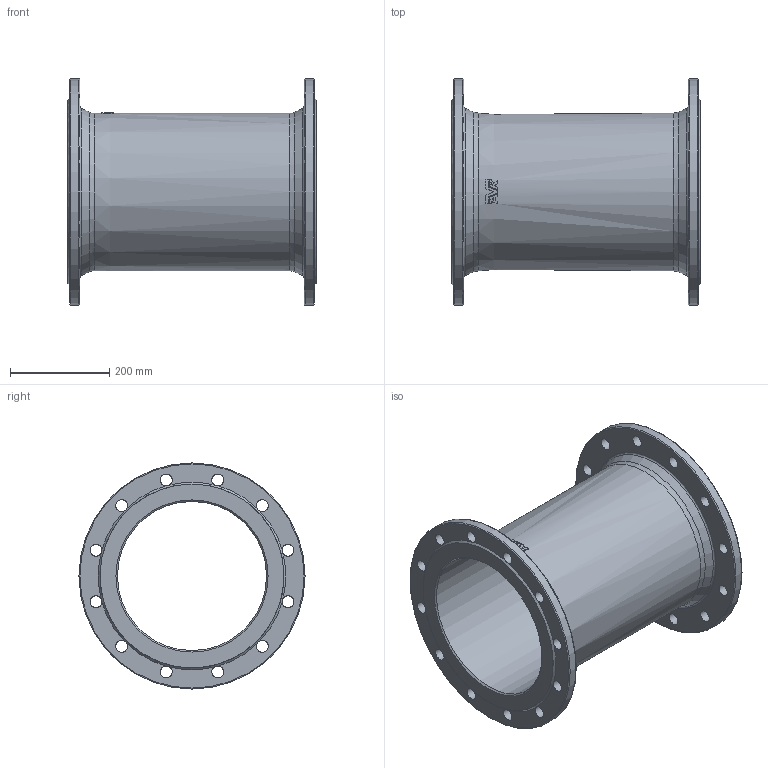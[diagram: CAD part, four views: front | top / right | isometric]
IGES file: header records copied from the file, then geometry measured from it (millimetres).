
Start section: SolidWorks IGES file using analytic representation for surfaces
Global section: file name: \\avksan2\techshare\PBM outline export from Enovia\O_712_4810_DN300_0X_REV01.igs; native system: SolidWorks 2019; preprocessor: SolidWorks 2019; author: pbm; date: 211201.114835; units: millimetre
Bounding box: 500 x 455 x 455 mm (x, y, z)
Surface area: 1324217.7 mm2 (no closed solid volume)
Topology: 0 solids, 0 shells, 112 faces, 578 edges, 535 vertices
Faces by surface type: bspline 66, revolution 46
